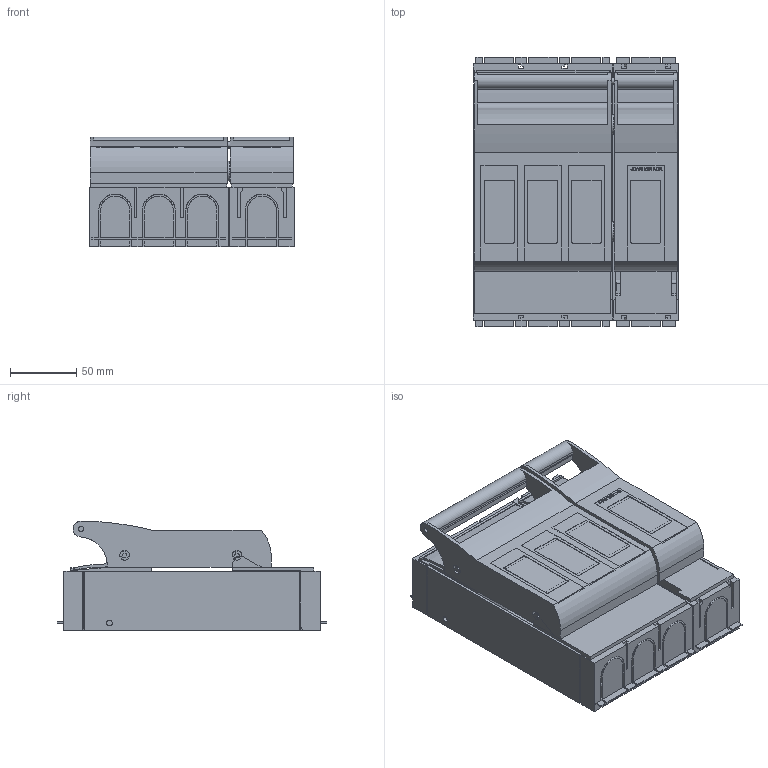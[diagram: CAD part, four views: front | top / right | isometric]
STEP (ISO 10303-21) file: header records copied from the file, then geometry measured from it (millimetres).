
FILE_DESCRIPTION(('CATIA V5 STEP'),'2;1');
FILE_NAME('S:\STEP_Dateien\STEP_Dateien_Trenner\KETO-Step-Dateien-1-2-und-4-polig\T500114000_L_NH-Sicherungslasttrennschalter-KETO-00-4_F.stp','2016-06-03T08:13:48+00:00',('none'),('Jean Müller GmbH'),'CATIA Version 5 Release 19 SP 9 (IN-10)','CATIA V5 STEP AP214','none');
FILE_SCHEMA(('AUTOMOTIVE_DESIGN { 1 0 10303 214 1 1 1 1 }'));
Products named in the file (19): T500114000_L_NH-Sicherungslasttrennschalter KETO-00-4/F; 34170_L_Trennergehaeuse Gr00_3-polig; 153126_L01_Federkontakt Gr00; 34171_L_Abdeckung oben Gr00_3-polig; 34172_L_Abdeckung unten Gr00_3-polig; 34200_L02_Frontplatte Gr00_3-polig kpl; 34200_L_Frontplatte Gr00_3-polig; 31916_Verbindungsclip; 67107_Rohrniet B4x03x6; 85915_Isolierhülse; 68366_Zylinderstift ISO 8734 - 5x22 - A - St; 85916_Rastniet; 34199_L_Frontplatte Gr00_1-polig; 34174_L_Trennergehaeuse Gr00_1-polig; 34176_L_Abdeckung unten Gr00_1-polig; 34175_L_Abdeckung oben Gr00-1-polig; 65716_Sechskantschraube mit Ring M8x16_Z4_DIN933; 34207_L_Scheibe Gr00; 34207_L01_Scheibe Gr00-KETO
Assembly tree (40 placements, depth 3):
  T500114000_L_NH-Sicherungslasttrennschalter KETO-00-4/F
    34170_L_Trennergehaeuse Gr00_3-polig
    153126_L01_Federkontakt Gr00  x8
    34171_L_Abdeckung oben Gr00_3-polig
    34172_L_Abdeckung unten Gr00_3-polig
    34200_L02_Frontplatte Gr00_3-polig kpl
      34200_L_Frontplatte Gr00_3-polig
    31916_Verbindungsclip  x2
    67107_Rohrniet B4x03x6  x2
    85915_Isolierhülse  x2
    68366_Zylinderstift ISO 8734 - 5x22 - A - St
    85916_Rastniet  x4
    34199_L_Frontplatte Gr00_1-polig
    34174_L_Trennergehaeuse Gr00_1-polig
    34176_L_Abdeckung unten Gr00_1-polig
    34175_L_Abdeckung oben Gr00-1-polig
    65716_Sechskantschraube mit Ring M8x16_Z4_DIN933  x8
    34207_L_Scheibe Gr00
    34207_L01_Scheibe Gr00-KETO  x3
Bounding box: 155.75 x 204.05 x 83.19 mm (x, y, z)
Volume: 1089235.8 mm3; surface area: 404484.4 mm2
Topology: 39 solids, 39 shells, 3374 faces, 9604 edges, 6310 vertices
Faces by surface type: plane 2637, cylinder 555, cone 118, torus 40, sphere 16, bspline 8
Entity records: 70118 total; most frequent: CARTESIAN_POINT 13486, ORIENTED_EDGE 13222, DIRECTION 8985, EDGE_CURVE 6611, VECTOR 5400, LINE 5400, VERTEX_POINT 4417, EDGE_LOOP 2382
